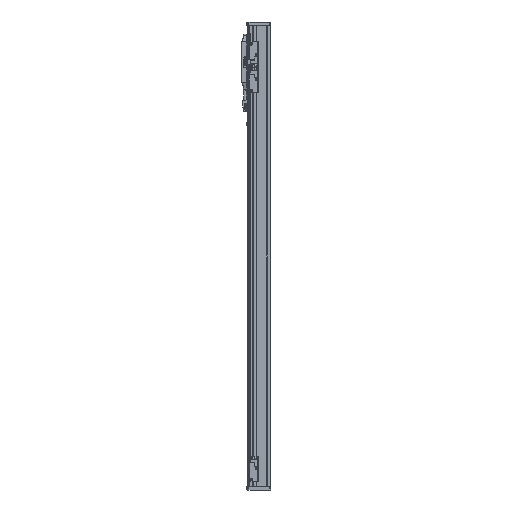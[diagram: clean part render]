
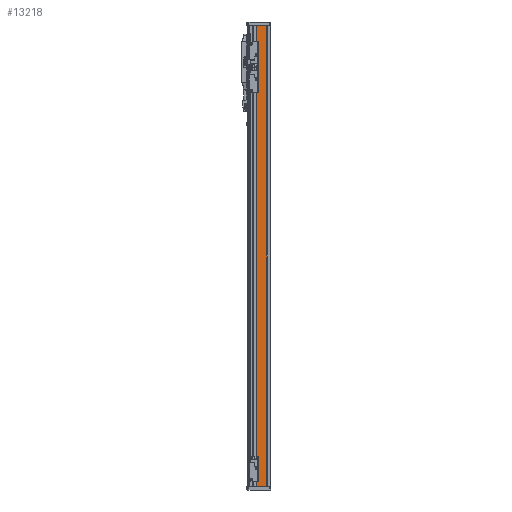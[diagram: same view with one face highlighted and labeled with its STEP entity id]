
A CAD part, left-side view. The second image highlights one B-rep face of the part: STEP entity #13218.
In plain terms, the highlighted planar face has unit normal (-1, 0, 0).
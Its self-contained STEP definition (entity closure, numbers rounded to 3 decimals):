
#152 = PLANE('',#153);
#153 = AXIS2_PLACEMENT_3D('',#154,#155,#156);
#154 = CARTESIAN_POINT('',(0.,0.,475.));
#155 = DIRECTION('',(-0.,0.,1.));
#156 = DIRECTION('',(1.,0.,0.));
#1169 = PLANE('',#1170);
#1170 = AXIS2_PLACEMENT_3D('',#1171,#1172,#1173);
#1171 = CARTESIAN_POINT('',(0.,0.,-475.));
#1172 = DIRECTION('',(-0.,0.,1.));
#1173 = DIRECTION('',(1.,0.,0.));
#7249 = PLANE('',#7250);
#7250 = AXIS2_PLACEMENT_3D('',#7251,#7252,#7253);
#7251 = CARTESIAN_POINT('',(-27.5,-17.,470.));
#7252 = DIRECTION('',(-0.707,0.707,0.));
#7253 = DIRECTION('',(0.,0.,1.));
#7651 = VERTEX_POINT('',#7652);
#7652 = CARTESIAN_POINT('',(-27.1,4.6,475.));
#7666 = PLANE('',#7667);
#7667 = AXIS2_PLACEMENT_3D('',#7668,#7669,#7670);
#7668 = CARTESIAN_POINT('',(-27.1,4.6,470.));
#7669 = DIRECTION('',(-0.707,-0.707,0.));
#7670 = DIRECTION('',(0.,0.,1.));
#7678 = EDGE_CURVE('',#7651,#7679,#7681,.T.);
#7679 = VERTEX_POINT('',#7680);
#7680 = CARTESIAN_POINT('',(-27.1,-16.6,475.));
#7681 = SURFACE_CURVE('',#7682,(#7686,#7693),.PCURVE_S1.);
#7682 = LINE('',#7683,#7684);
#7683 = CARTESIAN_POINT('',(-27.1,8.,475.));
#7684 = VECTOR('',#7685,1.);
#7685 = DIRECTION('',(0.,-1.,0.));
#7686 = PCURVE('',#152,#7687);
#7687 = DEFINITIONAL_REPRESENTATION('',(#7688),#7692);
#7688 = LINE('',#7689,#7690);
#7689 = CARTESIAN_POINT('',(-27.1,8.));
#7690 = VECTOR('',#7691,1.);
#7691 = DIRECTION('',(0.,-1.));
#7692 = ( GEOMETRIC_REPRESENTATION_CONTEXT(2) 
PARAMETRIC_REPRESENTATION_CONTEXT() REPRESENTATION_CONTEXT('2D SPACE',''
  ) );
#7693 = PCURVE('',#7694,#7699);
#7694 = PLANE('',#7695);
#7695 = AXIS2_PLACEMENT_3D('',#7696,#7697,#7698);
#7696 = CARTESIAN_POINT('',(-27.1,8.,470.));
#7697 = DIRECTION('',(1.,0.,0.));
#7698 = DIRECTION('',(0.,1.,0.));
#7699 = DEFINITIONAL_REPRESENTATION('',(#7700),#7704);
#7700 = LINE('',#7701,#7702);
#7701 = CARTESIAN_POINT('',(0.,5.));
#7702 = VECTOR('',#7703,1.);
#7703 = DIRECTION('',(-1.,0.));
#7704 = ( GEOMETRIC_REPRESENTATION_CONTEXT(2) 
PARAMETRIC_REPRESENTATION_CONTEXT() REPRESENTATION_CONTEXT('2D SPACE',''
  ) );
#8718 = VERTEX_POINT('',#8719);
#8719 = CARTESIAN_POINT('',(-27.1,-16.6,-475.));
#8740 = EDGE_CURVE('',#8718,#8741,#8743,.T.);
#8741 = VERTEX_POINT('',#8742);
#8742 = CARTESIAN_POINT('',(-27.1,4.6,-475.));
#8743 = SURFACE_CURVE('',#8744,(#8748,#8755),.PCURVE_S1.);
#8744 = LINE('',#8745,#8746);
#8745 = CARTESIAN_POINT('',(-27.1,0.,-475.));
#8746 = VECTOR('',#8747,1.);
#8747 = DIRECTION('',(0.,1.,0.));
#8748 = PCURVE('',#1169,#8749);
#8749 = DEFINITIONAL_REPRESENTATION('',(#8750),#8754);
#8750 = LINE('',#8751,#8752);
#8751 = CARTESIAN_POINT('',(-27.1,0.));
#8752 = VECTOR('',#8753,1.);
#8753 = DIRECTION('',(0.,1.));
#8754 = ( GEOMETRIC_REPRESENTATION_CONTEXT(2) 
PARAMETRIC_REPRESENTATION_CONTEXT() REPRESENTATION_CONTEXT('2D SPACE',''
  ) );
#8755 = PCURVE('',#7694,#8756);
#8756 = DEFINITIONAL_REPRESENTATION('',(#8757),#8761);
#8757 = LINE('',#8758,#8759);
#8758 = CARTESIAN_POINT('',(-8.,-945.));
#8759 = VECTOR('',#8760,1.);
#8760 = DIRECTION('',(1.,0.));
#8761 = ( GEOMETRIC_REPRESENTATION_CONTEXT(2) 
PARAMETRIC_REPRESENTATION_CONTEXT() REPRESENTATION_CONTEXT('2D SPACE',''
  ) );
#13218 = ADVANCED_FACE('',(#13219),#7694,.F.);
#13219 = FACE_BOUND('',#13220,.T.);
#13220 = EDGE_LOOP('',(#13221,#13222,#13243,#13244));
#13221 = ORIENTED_EDGE('',*,*,#7678,.F.);
#13222 = ORIENTED_EDGE('',*,*,#13223,.T.);
#13223 = EDGE_CURVE('',#7651,#8741,#13224,.T.);
#13224 = SURFACE_CURVE('',#13225,(#13229,#13236),.PCURVE_S1.);
#13225 = LINE('',#13226,#13227);
#13226 = CARTESIAN_POINT('',(-27.1,4.6,-470.));
#13227 = VECTOR('',#13228,1.);
#13228 = DIRECTION('',(0.,0.,-1.));
#13229 = PCURVE('',#7694,#13230);
#13230 = DEFINITIONAL_REPRESENTATION('',(#13231),#13235);
#13231 = LINE('',#13232,#13233);
#13232 = CARTESIAN_POINT('',(-3.4,-940.));
#13233 = VECTOR('',#13234,1.);
#13234 = DIRECTION('',(0.,-1.));
#13235 = ( GEOMETRIC_REPRESENTATION_CONTEXT(2) 
PARAMETRIC_REPRESENTATION_CONTEXT() REPRESENTATION_CONTEXT('2D SPACE',''
  ) );
#13236 = PCURVE('',#7666,#13237);
#13237 = DEFINITIONAL_REPRESENTATION('',(#13238),#13242);
#13238 = LINE('',#13239,#13240);
#13239 = CARTESIAN_POINT('',(-940.,0.));
#13240 = VECTOR('',#13241,1.);
#13241 = DIRECTION('',(-1.,0.));
#13242 = ( GEOMETRIC_REPRESENTATION_CONTEXT(2) 
PARAMETRIC_REPRESENTATION_CONTEXT() REPRESENTATION_CONTEXT('2D SPACE',''
  ) );
#13243 = ORIENTED_EDGE('',*,*,#8740,.F.);
#13244 = ORIENTED_EDGE('',*,*,#13245,.T.);
#13245 = EDGE_CURVE('',#8718,#7679,#13246,.T.);
#13246 = SURFACE_CURVE('',#13247,(#13251,#13258),.PCURVE_S1.);
#13247 = LINE('',#13248,#13249);
#13248 = CARTESIAN_POINT('',(-27.1,-16.6,470.));
#13249 = VECTOR('',#13250,1.);
#13250 = DIRECTION('',(0.,0.,1.));
#13251 = PCURVE('',#7694,#13252);
#13252 = DEFINITIONAL_REPRESENTATION('',(#13253),#13257);
#13253 = LINE('',#13254,#13255);
#13254 = CARTESIAN_POINT('',(-24.6,0.));
#13255 = VECTOR('',#13256,1.);
#13256 = DIRECTION('',(0.,1.));
#13257 = ( GEOMETRIC_REPRESENTATION_CONTEXT(2) 
PARAMETRIC_REPRESENTATION_CONTEXT() REPRESENTATION_CONTEXT('2D SPACE',''
  ) );
#13258 = PCURVE('',#7249,#13259);
#13259 = DEFINITIONAL_REPRESENTATION('',(#13260),#13264);
#13260 = LINE('',#13261,#13262);
#13261 = CARTESIAN_POINT('',(0.,0.566));
#13262 = VECTOR('',#13263,1.);
#13263 = DIRECTION('',(1.,0.));
#13264 = ( GEOMETRIC_REPRESENTATION_CONTEXT(2) 
PARAMETRIC_REPRESENTATION_CONTEXT() REPRESENTATION_CONTEXT('2D SPACE',''
  ) );
